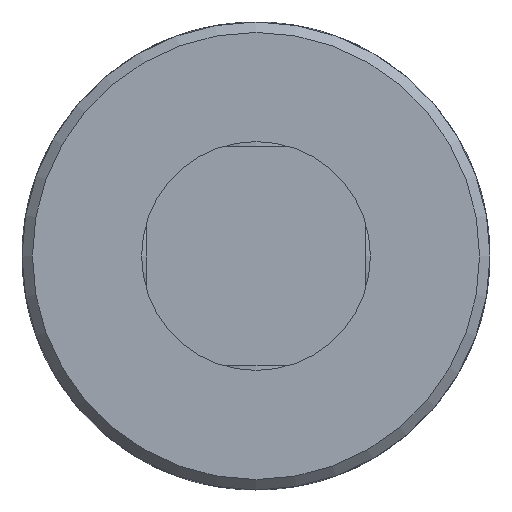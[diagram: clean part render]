
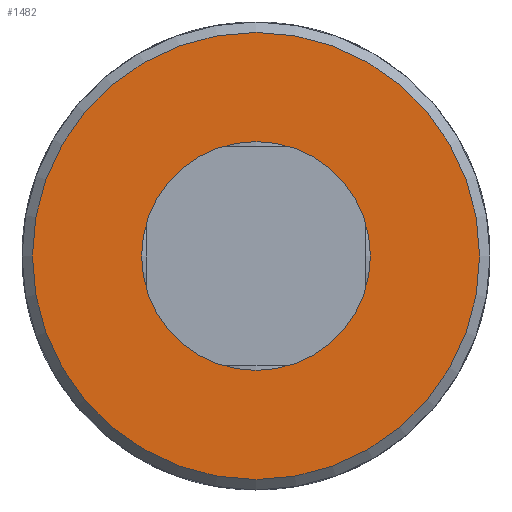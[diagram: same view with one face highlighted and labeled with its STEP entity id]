
A CAD part, front view. The second image highlights one B-rep face of the part: STEP entity #1482.
In plain terms, the highlighted planar face has unit normal (0, -1, 0).
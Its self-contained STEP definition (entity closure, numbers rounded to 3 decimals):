
#200=PLANE('',#1633);
#334=FACE_BOUND('',#543,.T.);
#412=FACE_OUTER_BOUND('',#542,.T.);
#542=EDGE_LOOP('',(#1295));
#543=EDGE_LOOP('',(#1296));
#626=CIRCLE('',#1628,11.);
#628=CIRCLE('',#1631,21.5);
#754=VERTEX_POINT('',#2865);
#756=VERTEX_POINT('',#2870);
#939=EDGE_CURVE('',#754,#754,#626,.T.);
#941=EDGE_CURVE('',#756,#756,#628,.T.);
#1295=ORIENTED_EDGE('',*,*,#941,.F.);
#1296=ORIENTED_EDGE('',*,*,#939,.T.);
#1482=ADVANCED_FACE('',(#412,#334),#200,.F.);
#1628=AXIS2_PLACEMENT_3D('',#2866,#1954,#1955);
#1631=AXIS2_PLACEMENT_3D('',#2871,#1960,#1961);
#1633=AXIS2_PLACEMENT_3D('',#3055,#1968,#1969);
#1954=DIRECTION('center_axis',(0.,1.,0.));
#1955=DIRECTION('ref_axis',(-1.,0.,0.));
#1960=DIRECTION('center_axis',(0.,1.,0.));
#1961=DIRECTION('ref_axis',(1.,0.,0.));
#1968=DIRECTION('center_axis',(0.,1.,0.));
#1969=DIRECTION('ref_axis',(0.,0.,1.));
#2865=CARTESIAN_POINT('',(11.,-58.,0.));
#2866=CARTESIAN_POINT('Origin',(0.,-58.,0.));
#2870=CARTESIAN_POINT('',(-21.5,-58.,0.));
#2871=CARTESIAN_POINT('Origin',(0.,-58.,0.));
#3055=CARTESIAN_POINT('Origin',(0.,-58.,0.));
